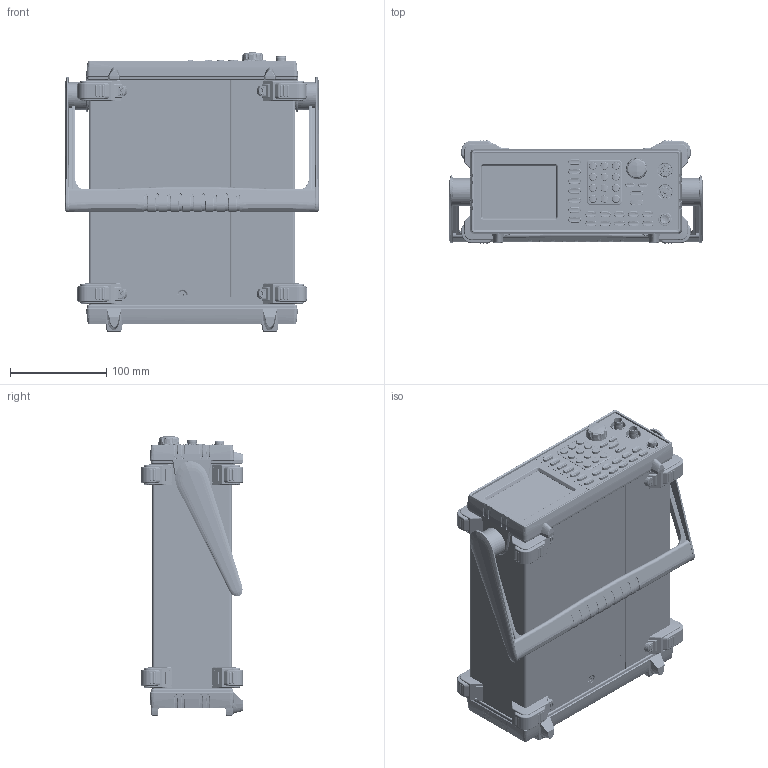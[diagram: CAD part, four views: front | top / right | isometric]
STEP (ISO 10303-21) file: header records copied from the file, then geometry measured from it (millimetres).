
FILE_DESCRIPTION((''),'2;1');
FILE_NAME('AFG2000_ASM_ASM_ASM','2018-06-05T',('rd407'),(''),'PRO/ENGINEER BY PARAMETRIC TECHNOLOGY CORPORATION, 2010160','PRO/ENGINEER BY PARAMETRIC TECHNOLOGY CORPORATION, 2010160','');
FILE_SCHEMA(('CONFIG_CONTROL_DESIGN'));
Length unit declared in the file: millimetre
Products named in the file (33): AFG2000_FRONT_FRAME_1; AFG2000_SILLICON_RUBBER_1; 5005-220G010_1; AFG2000_ENCODER_SW_PCB_ASM_ASM__ASM; BNC-JACK_1; AFG2000_FRONT_ASM_ASM_1_ASM; AFG-2000_POWER_JOINT_STICK_1; AFG2000_LCD_1; AFG2000_LCD_HOLD_ASM_ASM_1_ASM; AFG-2000_HP_2; SO-M3X14_5_1; AFG-2000_HP_ASM_1_ASM; AFG-2000_MAIN_PCB_1; BNC-DUAL-PORTS_1; USB_1; 3601-00625301_1; SW-POWER-01_1; AFG-2000_MAIN_NP_ASM_1_ASM; AFG2000_MHP_ASM_ASM_1_ASM; 62FG-120UP10_1; 63FC-TG10010_1; 63FC-ZG10020_1; 63FC-ZG10010_1; FMS-3X6_1; 1042-2120020_ASM_1_ASM; SFG8320_UP_ASM_ASM_1_ASM; 63RP-AG10090_1; 57FC-50G0010_1; SFG8320_PRP_ASM_ASM_1_ASM; 63HD-AG10120_1; SFG8320_HANDLE_STATUS_ASM_1_ASM; AFG2000_ASM_ASM_1_ASM; AFG2000_ASM_ASM_ASM
Assembly tree (43 placements, depth 5):
  AFG2000_ASM_ASM_ASM
    AFG2000_ASM_ASM_1_ASM
      AFG2000_FRONT_ASM_ASM_1_ASM
        AFG2000_FRONT_FRAME_1
        AFG2000_SILLICON_RUBBER_1
        5005-220G010_1
        AFG2000_ENCODER_SW_PCB_ASM_ASM__ASM
        BNC-JACK_1  x2
      AFG2000_MHP_ASM_ASM_1_ASM
        AFG-2000_POWER_JOINT_STICK_1
        AFG2000_LCD_HOLD_ASM_ASM_1_ASM
          AFG2000_LCD_1
        AFG-2000_HP_ASM_1_ASM
          AFG-2000_HP_2
          SO-M3X14_5_1
        AFG-2000_MAIN_NP_ASM_1_ASM
          AFG-2000_MAIN_PCB_1
          BNC-DUAL-PORTS_1  x2
          USB_1
          3601-00625301_1
          SW-POWER-01_1
      SFG8320_UP_ASM_ASM_1_ASM
        62FG-120UP10_1
        1042-2120020_ASM_1_ASM  x8
          63FC-TG10010_1
          63FC-ZG10020_1
          63FC-ZG10010_1
          FMS-3X6_1
      SFG8320_PRP_ASM_ASM_1_ASM
        63RP-AG10090_1
        57FC-50G0010_1  x2
      SFG8320_HANDLE_STATUS_ASM_1_ASM
        63HD-AG10120_1
Bounding box: 264.4 x 107 x 290.9 mm (x, y, z)
Volume: 657669.9 mm3; surface area: 807061.6 mm2
Topology: 60 solids, 60 shells, 10414 faces, 27987 edges, 17930 vertices
Faces by surface type: plane 5799, cylinder 1900, cone 1450, bspline 766, torus 315, sphere 114, extrusion 70
Entity records: 244879 total; most frequent: CARTESIAN_POINT 78681, ORIENTED_EDGE 35782, DIRECTION 32619, EDGE_CURVE 17891, VERTEX_POINT 11485, VECTOR 11343, LINE 11306, AXIS2_PLACEMENT_3D 10638
